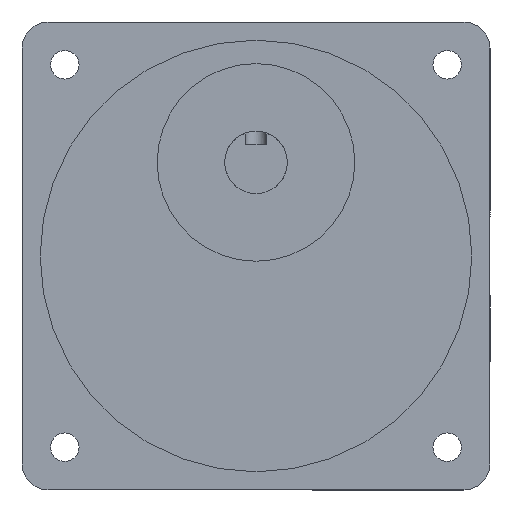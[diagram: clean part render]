
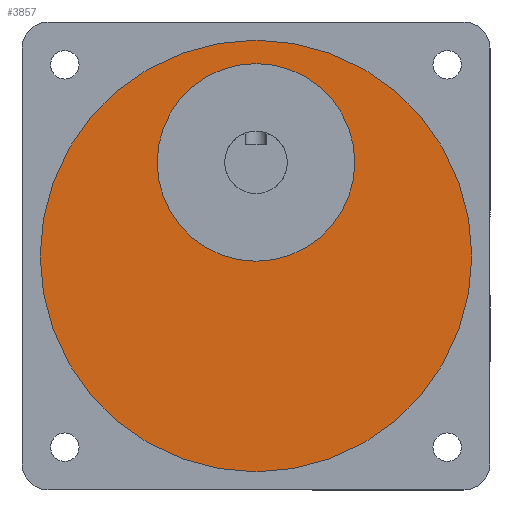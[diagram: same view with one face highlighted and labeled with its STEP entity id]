
A CAD part, front view. The second image highlights one B-rep face of the part: STEP entity #3857.
In plain terms, the highlighted planar face has unit normal (0, -1, 0).
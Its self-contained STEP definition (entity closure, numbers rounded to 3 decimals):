
#171 = CARTESIAN_POINT ( 'NONE',  ( 45., -40., 45. ) ) ;
#227 = AXIS2_PLACEMENT_3D ( 'NONE', #171, #2787, #4309 ) ;
#268 = EDGE_LOOP ( 'NONE', ( #3207, #1764 ) ) ;
#364 = CARTESIAN_POINT ( 'NONE',  ( 45., -40., 86.5 ) ) ;
#469 = CIRCLE ( 'NONE', #896, 19. ) ;
#477 = VERTEX_POINT ( 'NONE', #4740 ) ;
#637 = PLANE ( 'NONE',  #4386 ) ;
#896 = AXIS2_PLACEMENT_3D ( 'NONE', #4637, #3531, #3498 ) ;
#1057 = AXIS2_PLACEMENT_3D ( 'NONE', #3284, #3629, #3314 ) ;
#1075 = VERTEX_POINT ( 'NONE', #364 ) ;
#1241 = FACE_OUTER_BOUND ( 'NONE', #2737, .T. ) ;
#1420 = ORIENTED_EDGE ( 'NONE', *, *, #2409, .T. ) ;
#1663 = CARTESIAN_POINT ( 'NONE',  ( 45., -40., 45. ) ) ;
#1764 = ORIENTED_EDGE ( 'NONE', *, *, #4287, .F. ) ;
#1784 = ORIENTED_EDGE ( 'NONE', *, *, #1966, .T. ) ;
#1966 = EDGE_CURVE ( 'NONE', #1075, #3085, #3203, .T. ) ;
#2329 = VERTEX_POINT ( 'NONE', #4267 ) ;
#2372 = DIRECTION ( 'NONE',  ( 0., 0., -1. ) ) ;
#2409 = EDGE_CURVE ( 'NONE', #3085, #1075, #4248, .T. ) ;
#2513 = DIRECTION ( 'NONE',  ( 0., 0., -1. ) ) ;
#2737 = EDGE_LOOP ( 'NONE', ( #1420, #1784 ) ) ;
#2787 = DIRECTION ( 'NONE',  ( 0., -1., 0. ) ) ;
#2944 = CIRCLE ( 'NONE', #1057, 19. ) ;
#3085 = VERTEX_POINT ( 'NONE', #3503 ) ;
#3203 = CIRCLE ( 'NONE', #227, 41.5 ) ;
#3207 = ORIENTED_EDGE ( 'NONE', *, *, #4517, .F. ) ;
#3284 = CARTESIAN_POINT ( 'NONE',  ( 45., -40., 63. ) ) ;
#3314 = DIRECTION ( 'NONE',  ( 0., 0., -1. ) ) ;
#3352 = FACE_BOUND ( 'NONE', #268, .T. ) ;
#3498 = DIRECTION ( 'NONE',  ( 0., 0., -1. ) ) ;
#3503 = CARTESIAN_POINT ( 'NONE',  ( 45., -40., 3.5 ) ) ;
#3531 = DIRECTION ( 'NONE',  ( 0., -1., 0. ) ) ;
#3629 = DIRECTION ( 'NONE',  ( 0., -1., 0. ) ) ;
#3857 = ADVANCED_FACE ( 'NONE', ( #3352, #1241 ), #637, .T. ) ;
#3989 = CARTESIAN_POINT ( 'NONE',  ( 45., -40., 45. ) ) ;
#4248 = CIRCLE ( 'NONE', #4251, 41.5 ) ;
#4251 = AXIS2_PLACEMENT_3D ( 'NONE', #1663, #4302, #2372 ) ;
#4267 = CARTESIAN_POINT ( 'NONE',  ( 45., -40., 44. ) ) ;
#4287 = EDGE_CURVE ( 'NONE', #2329, #477, #2944, .T. ) ;
#4302 = DIRECTION ( 'NONE',  ( 0., -1., 0. ) ) ;
#4309 = DIRECTION ( 'NONE',  ( 0., 0., -1. ) ) ;
#4374 = DIRECTION ( 'NONE',  ( 0., -1., 0. ) ) ;
#4386 = AXIS2_PLACEMENT_3D ( 'NONE', #3989, #4374, #2513 ) ;
#4517 = EDGE_CURVE ( 'NONE', #477, #2329, #469, .T. ) ;
#4637 = CARTESIAN_POINT ( 'NONE',  ( 45., -40., 63. ) ) ;
#4740 = CARTESIAN_POINT ( 'NONE',  ( 45., -40., 82. ) ) ;
